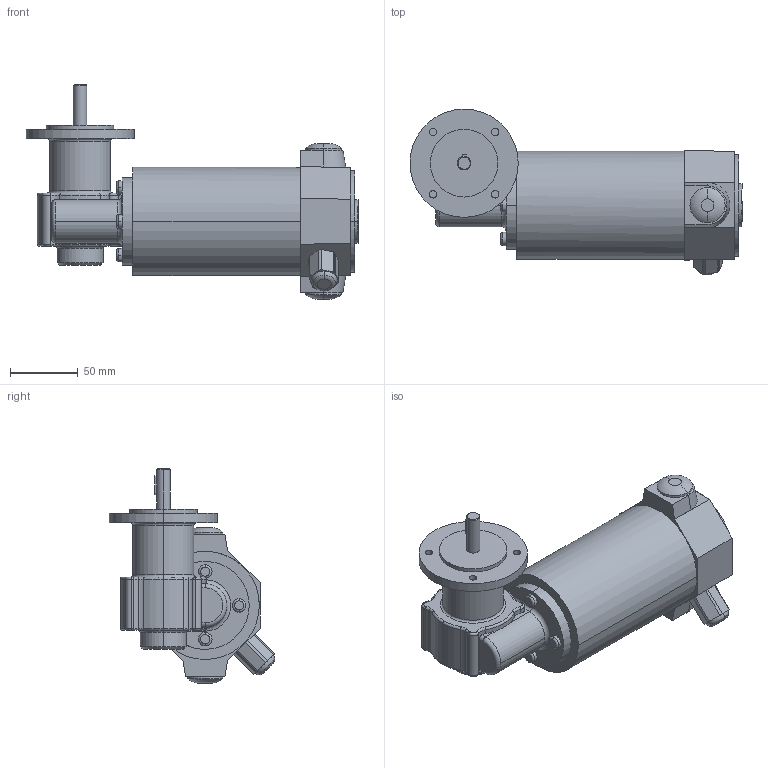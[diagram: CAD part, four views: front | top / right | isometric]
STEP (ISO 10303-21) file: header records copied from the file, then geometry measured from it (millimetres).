
FILE_DESCRIPTION(('OneSpaceDesigner STEP Export'),'2;1');
FILE_NAME('EPG13_GF128-10.stp','2008-07-02T15:12:24',(''),(''),'OneSpace Designer STEP processor (Jan. 2003) for AP214(CD)(Solid Model)','OneSpace Designer 12.01D 09-Jul-2004 (C) CoCreate Software GmbH','');
FILE_SCHEMA(('AUTOMOTIVE_DESIGN_CC2 {1 2 10303 214 -1 1 5 1}'));
Length unit declared in the file: millimetre
Products named in the file (2): EPG13_GF128-10
Assembly tree (1 placements, depth 2):
  EPG13_GF128-10
    EPG13_GF128-10
Bounding box: 245.5 x 122.39 x 158.5 mm (x, y, z)
Volume: 1176850.9 mm3; surface area: 90771.2 mm2
Topology: 1 solids, 1 shells, 217 faces, 524 edges, 326 vertices
Faces by surface type: cylinder 87, torus 74, plane 50, cone 4, bspline 2
Entity records: 8817 total; most frequent: CARTESIAN_POINT 4226, ORIENTED_EDGE 1048, DIRECTION 867, EDGE_CURVE 524, AXIS2_PLACEMENT_3D 357, VERTEX_POINT 326, EDGE_LOOP 242, CIRCLE 217
